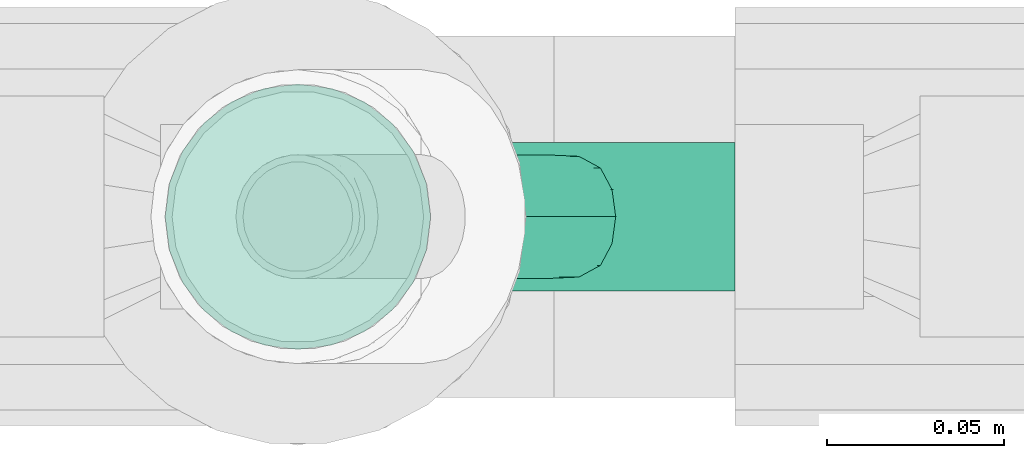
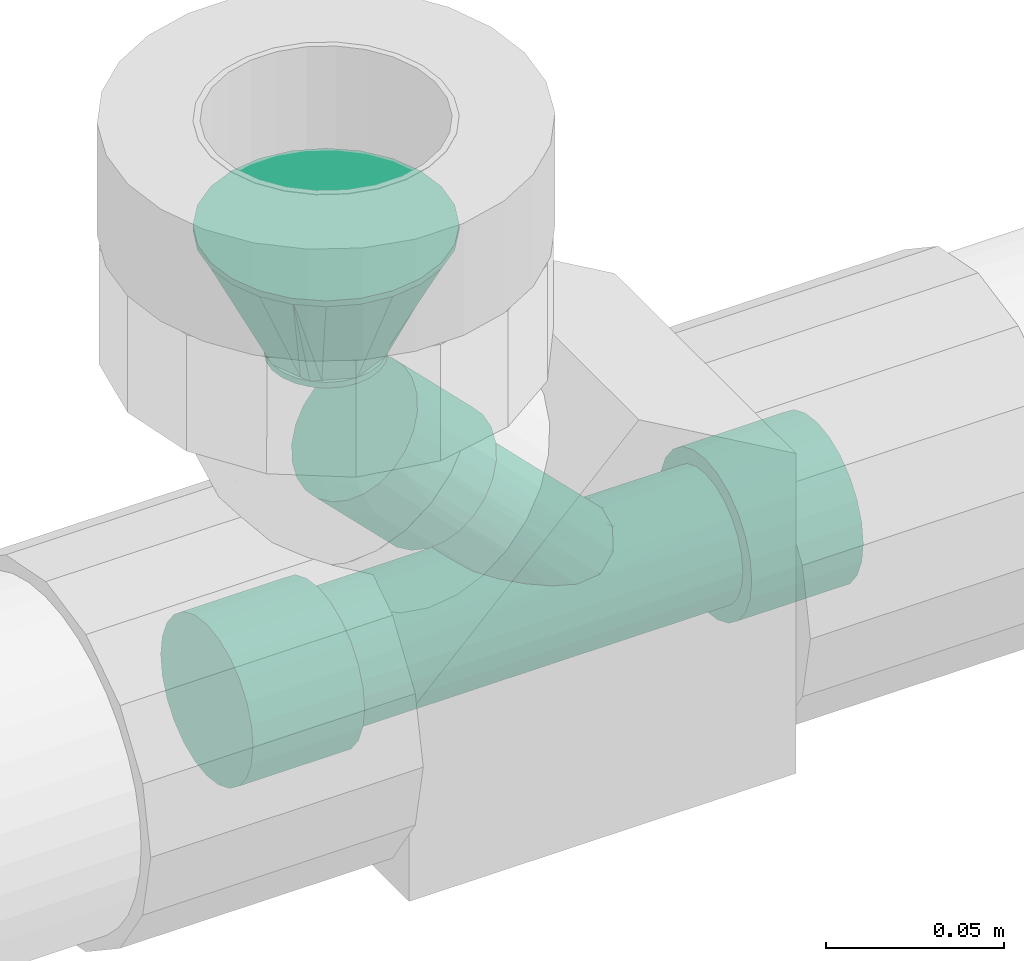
# One storey, part 30 of 35: 2 flow fittings.
"""IFC2X3 building model written with IfcOpenShell, lengths in millimetres."""

from ifc_helpers import new_model, entity, si_unit, converted_unit, derived_unit, direction, frame, origin_with_axes, place, context, subcontext, project, spatial, open_shell, surface_model, source, transform, mapped, type_object, element, save


model = new_model("IFC2X3")

# Units and contexts
model_context = context("Model", 3, precision=0.01, world=frame((0.0, 4.29681676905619e-09, 0.0)), true_north=direction((4.01073788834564e-13, 1.0)))
plan_context = context("Plan", 3, precision=0.01, world=frame((0.0, 4.29681676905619e-09, 0.0)), true_north=direction((4.01073788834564e-13, 1.0)))
body_context = subcontext(model_context, "Body", "Model", "MODEL_VIEW")
ifc_project = project(units=[converted_unit("PLANEANGLEUNIT", "DEGREE", entity("IfcPositiveLengthMeasure", 0.0174532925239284), si_unit("PLANEANGLEUNIT", "RADIAN"), dimensions=[0, 0, 0, 0, 0, 0, 0]), si_unit("AREAUNIT", "SQUARE_METRE"), si_unit("LENGTHUNIT", "METRE", prefix="MILLI"), si_unit("MASSUNIT", "GRAM", prefix="KILO"), si_unit("POWERUNIT", "WATT"), si_unit("PRESSUREUNIT", "PASCAL"), si_unit("FORCEUNIT", "NEWTON", prefix="KILO"), si_unit("ELECTRICVOLTAGEUNIT", "VOLT"), si_unit("ELECTRICCURRENTUNIT", "AMPERE"), si_unit("THERMODYNAMICTEMPERATUREUNIT", "DEGREE_CELSIUS"), si_unit("TIMEUNIT", "SECOND"), si_unit("VOLUMEUNIT", "CUBIC_METRE"), derived_unit("LINEARVELOCITYUNIT", [(si_unit("LENGTHUNIT", "METRE"), 1), (si_unit("TIMEUNIT", "SECOND"), -1)]), derived_unit("VOLUMETRICFLOWRATEUNIT", [(si_unit("VOLUMEUNIT", "CUBIC_METRE"), 1), (si_unit("TIMEUNIT", "SECOND"), -1)]), derived_unit("THERMALTRANSMITTANCEUNIT", [(si_unit("POWERUNIT", "WATT"), 1), (si_unit("THERMODYNAMICTEMPERATUREUNIT", "KELVIN"), -1), (si_unit("AREAUNIT", "SQUARE_METRE"), -1)]), derived_unit("SOUNDPRESSUREUNIT", [(si_unit("PRESSUREUNIT", "PASCAL"), 1)])], contexts=[model_context, plan_context])

# Site, building, storey
site_placement = place(None, frame((0.0, -4.29681676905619e-09, 0.0), z_axis=(0.0, 0.0, 1.0), x_axis=(1.0, 0.0, 0.0)))
site = spatial("IfcSite", under=ifc_project, at=site_placement, Name="ENGM", CompositionType="ELEMENT")
building_placement = place(site_placement, frame((0.0, 4.29681676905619e-09, 0.0), z_axis=(0.0, 0.0, 1.0), x_axis=(1.0, 0.0, 0.0)))
building = spatial("IfcBuilding", under=site, at=building_placement, Name="TH", CompositionType="ELEMENT")
storey_placement = place(building_placement, frame((0.0, 0.0, 210200.0), z_axis=(0.0, 0.0, 1.0), x_axis=(1.0, 0.0, 0.0)))
storey = spatial("IfcBuildingStorey", under=building, at=storey_placement, Name="Nivå F - 0,7 m", CompositionType="ELEMENT", Elevation=210200.0)

# Flow fittings
pipe_fitting_type_1 = type_object("IfcPipeFittingType", Name="magi_sewer_tee_wye_NOR", PredefinedType="JUNCTION")
shared_shape_1 = source(origin_with_axes(), body_context, "Body", "SurfaceModel", [
    surface_model("IfcShellBasedSurfaceModel", [(73.67437, 25.11407, -6.72929), (73.67437, 6.72929, -25.11407), (73.67437, 13.0, -22.51666), (73.67437, 18.38478, -18.38478), (73.67437, -25.11407, 6.72929), (73.67437, -13.0, -22.51666), (73.67437, 22.51666, -13.0), (73.67437, 0.0, -26.0), (73.67437, -6.72929, -25.11407), (73.67437, -22.51666, -13.0), (73.67437, -18.38478, -18.38478), (73.67437, -26.0, 0.0), (73.67437, -25.11407, -6.72929), (73.67437, 25.11407, 6.72929), (73.67437, 26.0, 0.0), (73.67437, 22.51666, 13.0), (73.67437, 18.38478, 18.38478), (73.67437, 13.0, 22.51666), (73.67437, 6.72929, 25.11407), (73.67437, 0.0, 26.0), (73.67437, -6.72929, 25.11407), (73.67437, -18.38478, 18.38478), (73.67437, -22.51666, 13.0), (73.67437, -13.0, 22.51666), (37.37437, 0.0, 26.0), (37.37437, 6.72929, 25.11407), (37.37437, 13.0, 22.51666), (37.37437, -6.72929, 25.11407), (37.37437, 18.38478, 18.38478), (37.37437, 22.51666, 13.0), (37.37437, 25.11407, 6.72929), (37.37437, -22.51666, -13.0), (37.37437, -25.11407, 6.72929), (37.37437, -18.38478, 18.38478), (37.37437, -13.0, 22.51666), (37.37437, -22.51666, 13.0), (37.37437, -26.0, 0.0), (37.37437, 25.11407, -6.72929), (37.37437, 18.38478, -18.38478), (37.37437, 22.51666, -13.0), (37.37437, 13.0, -22.51666), (37.37437, 6.72929, -25.11407), (37.37437, -13.0, -22.51666), (37.37437, -18.38478, -18.38478), (37.37437, -25.11407, -6.72929), (37.37437, 0.0, -26.0), (37.37437, -6.72929, -25.11407), (37.37437, 26.0, 0.0), (-43.09709, -59.00699, -19.48557), (-46.93425, -55.16982, -21.73333), (-51.05204, -51.05204, -22.5), (-35.68425, -66.41982, -5.82343), (-37.27366, -64.83042, -11.25), (-39.80204, -62.30204, -15.9099), (-64.83042, -37.27366, -11.25), (-62.30204, -39.80204, -15.9099), (-59.00699, -43.09709, -19.48557), (-55.16982, -46.93425, -21.73333), (-66.41982, -35.68425, -5.82343), (-66.96194, -35.14214, 0.0), (-66.41982, -35.68425, 5.82343), (-37.27366, -64.83042, 11.25), (-35.68425, -66.41982, 5.82343), (-43.09709, -59.00699, 19.48557), (-39.80204, -62.30204, 15.9099), (-59.00699, -43.09709, 19.48557), (-51.05204, -51.05204, 22.5), (-46.93425, -55.16982, 21.73333), (-64.83042, -37.27366, 11.25), (-62.30204, -39.80204, 15.9099), (-55.16982, -46.93425, 21.73333), (-35.14214, -66.96194, 0.0), (-76.72002, -76.72002, -22.5), (-72.60223, -80.8378, -21.73333), (-68.76506, -84.67496, -19.48557), (-61.35223, -92.0878, -5.82343), (-62.94163, -90.49839, -11.25), (-65.47001, -87.97001, -15.9099), (-84.67496, -68.76506, -19.48557), (-62.94163, -90.49839, 11.25), (-92.62992, -60.81011, 0.0), (-87.97001, -65.47001, -15.9099), (-80.8378, -72.60223, -21.73333), (-90.49839, -62.94163, -11.25), (-92.0878, -61.35223, -5.82343), (-61.35223, -92.0878, 5.82343), (-84.67496, -68.76506, 19.48557), (-68.76506, -84.67496, 19.48557), (-65.47001, -87.97001, 15.9099), (-72.60223, -80.8378, 21.73333), (-76.72002, -76.72002, 22.5), (-90.49839, -62.94163, 11.25), (-92.0878, -61.35223, 5.82343), (-87.97001, -65.47001, 15.9099), (-80.8378, -72.60223, 21.73333), (-60.81011, -92.62992, 0.0), (-124.72641, -25.11407, -6.72929), (-124.72641, -6.72929, -25.11407), (-124.72641, -13.0, -22.51666), (-124.72641, -18.38478, -18.38478), (-124.72641, 25.11407, 6.72929), (-124.72641, 13.0, -22.51666), (-124.72641, -22.51666, -13.0), (-124.72641, 0.0, -26.0), (-124.72641, 6.72929, -25.11407), (-124.72641, 22.51666, -13.0), (-124.72641, 18.38478, -18.38478), (-124.72641, 26.0, 0.0), (-124.72641, 25.11407, -6.72929), (-124.72641, -25.11407, 6.72929), (-124.72641, -26.0, 0.0), (-124.72641, -22.51666, 13.0), (-124.72641, -18.38478, 18.38478), (-124.72641, -13.0, 22.51666), (-124.72641, -6.72929, 25.11407), (-124.72641, 0.0, 26.0), (-124.72641, 6.72929, 25.11407), (-124.72641, 18.38478, 18.38478), (-124.72641, 22.51666, 13.0), (-124.72641, 13.0, 22.51666), (-88.42641, 0.0, 26.0), (-88.42641, -6.72929, 25.11407), (-88.42641, -13.0, 22.51666), (-88.42641, 6.72929, 25.11407), (-88.42641, -18.38478, 18.38478), (-88.42641, -22.51666, 13.0), (-88.42641, -25.11407, 6.72929), (-88.42641, 22.51666, -13.0), (-88.42641, 25.11407, 6.72929), (-88.42641, 18.38478, 18.38478), (-88.42641, 13.0, 22.51666), (-88.42641, 22.51666, 13.0), (-88.42641, 26.0, 0.0), (-88.42641, -25.11407, -6.72929), (-88.42641, -18.38478, -18.38478), (-88.42641, -22.51666, -13.0), (-88.42641, -13.0, -22.51666), (-88.42641, -6.72929, -25.11407), (-88.42641, 13.0, -22.51666), (-88.42641, 18.38478, -18.38478), (-88.42641, 25.11407, -6.72929), (-88.42641, 0.0, -26.0), (-88.42641, 6.72929, -25.11407), (-88.42641, -26.0, 0.0), (37.37437, 5.4352, -20.28444), (37.37437, 10.5, -18.18653), (37.37437, 14.84924, -14.84924), (37.37437, -20.28444, 5.4352), (37.37437, 20.28444, 5.4352), (37.37437, 18.18653, -10.5), (37.37437, 20.28444, -5.4352), (37.37437, -10.5, -18.18653), (37.37437, 0.0, -21.0), (37.37437, -5.4352, -20.28444), (37.37437, -18.18653, -10.5), (37.37437, -14.84924, -14.84924), (37.37437, -21.0, 0.0), (37.37437, -20.28444, -5.4352), (37.37437, 21.0, 0.0), (37.37437, 18.18653, 10.5), (37.37437, 14.84924, 14.84924), (37.37437, 10.5, 18.18653), (37.37437, 5.4352, 20.28444), (37.37437, 0.0, 21.0), (37.37437, -14.84924, 14.84924), (37.37437, -18.18653, 10.5), (37.37437, -10.5, 18.18653), (37.37437, -5.4352, 20.28444), (-88.42641, 0.0, 21.0), (-88.42641, 5.4352, 20.28444), (-88.42641, 10.5, 18.18653), (-88.42641, 14.84924, 14.84924), (-88.42641, 18.18653, 10.5), (-88.42641, 20.28444, 5.4352), (-88.42641, -20.28444, 5.4352), (-88.42641, -10.5, -18.18653), (-88.42641, -10.5, 18.18653), (-88.42641, -5.4352, 20.28444), (-88.42641, -14.84924, 14.84924), (-88.42641, -18.18653, 10.5), (-88.42641, -21.0, 0.0), (-88.42641, 20.28444, -5.4352), (-88.42641, 14.84924, -14.84924), (-88.42641, 18.18653, -10.5), (-88.42641, 10.5, -18.18653), (-88.42641, 5.4352, -20.28444), (-88.42641, -14.84924, -14.84924), (-88.42641, -18.18653, -10.5), (-88.42641, -20.28444, -5.4352), (-88.42641, 0.0, -21.0), (-88.42641, -5.4352, -20.28444), (-88.42641, 21.0, 0.0), (-44.14318, -20.4097, -3.471), (-88.42641, -20.64222, -2.7176), (3.22779, -20.28185, -3.81646), (37.37437, -20.64222, -2.7176), (-45.74874, -21.0, 0.0), (-42.53762, -19.8194, -6.94199), (-36.42785, -17.64133, -11.39225), (3.74874, -21.0, 0.0), (-29.49359, -15.331, -14.35132), (-22.13765, -13.21276, -16.32247), (-14.45485, -11.76319, -17.39619), (2.70684, -19.5637, -7.63293), (37.37437, -19.23549, -7.9676), (-6.61324, -12.28041, -17.03501), (37.37437, -12.67462, -16.51789), (-0.55109, -15.88386, -13.73693), (1.07787, -17.72378, -10.68493), (37.37437, -16.51789, -12.67462), (-14.45485, -11.76319, 17.39619), (-44.14318, -20.4097, 3.471), (-88.42641, -20.64222, 2.7176), (-36.42785, -17.64133, 11.39225), (-29.49359, -15.331, 14.35132), (-6.61324, -12.28041, 17.03501), (37.37437, -12.67462, 16.51789), (-22.13765, -13.21276, 16.32247), (-42.53762, -19.8194, 6.94199), (2.70684, -19.5637, 7.63293), (3.22779, -20.28185, 3.81646), (37.37437, -19.23549, 7.9676), (-0.55109, -15.88386, 13.73693), (37.37437, -16.51789, 12.67462), (1.07787, -17.72378, 10.68493), (37.37437, -20.64222, 2.7176), (-47.84931, -54.25476, -16.9037), (-57.23922, -44.86485, -15.15544), (-51.05204, -51.05204, -17.5), (-42.30204, -59.80204, -12.37437), (-44.86485, -57.23922, -15.15544), (-40.33552, -61.76855, -8.75), (-39.09932, -63.00476, -4.52933), (-61.76855, -40.33552, -8.75), (-59.80204, -42.30204, -12.37437), (-54.25476, -47.84931, -16.9037), (-63.00476, -39.09932, 4.52933), (-63.00476, -39.09932, -4.52933), (-63.42641, -38.67767, 0.0), (-39.09932, -63.00476, 4.52933), (-42.30204, -59.80204, 12.37437), (-40.33552, -61.76855, 8.75), (-44.86485, -57.23922, 15.15544), (-47.84931, -54.25476, 16.9037), (-51.05204, -51.05204, 17.5), (-59.80204, -42.30204, 12.37437), (-61.76855, -40.33552, 8.75), (-57.23922, -44.86485, 15.15544), (-54.25476, -47.84931, 16.9037), (-38.67767, -63.42641, 0.0), (-3.58217, -14.08213, 15.38597), (-3.58217, -14.08213, -15.38597)], [open_shell([[[0, 1, 2]], [[0, 2, 3]], [[4, 5, 1]], [[0, 3, 6]], [[0, 4, 1]], [[7, 5, 8]], [[7, 1, 5]], [[5, 9, 10]], [[5, 4, 9]], [[9, 11, 12]], [[13, 0, 14]], [[13, 15, 16]], [[13, 16, 17]], [[17, 18, 19]], [[17, 4, 0]], [[20, 17, 19]], [[4, 21, 22]], [[11, 9, 4]], [[21, 20, 23]], [[20, 21, 4]], [[17, 20, 4]], [[0, 13, 17]], [[24, 25, 26]], [[27, 24, 26]], [[28, 29, 30]], [[28, 30, 26]], [[31, 32, 26]], [[27, 33, 34]], [[33, 27, 32]], [[33, 32, 35]], [[27, 26, 32]], [[32, 31, 36]], [[31, 26, 30]], [[31, 30, 37]], [[38, 37, 39]], [[40, 41, 37]], [[40, 37, 38]], [[31, 37, 41]], [[31, 42, 43]], [[44, 36, 31]], [[42, 45, 46]], [[42, 31, 41]], [[45, 42, 41]], [[30, 47, 37]], [[12, 36, 44]], [[31, 9, 44]], [[5, 42, 46]], [[8, 46, 45]], [[44, 9, 12]], [[12, 11, 36]], [[10, 43, 5]], [[10, 9, 31]], [[5, 43, 42]], [[46, 8, 5]], [[10, 31, 43]], [[45, 7, 8]], [[1, 41, 40]], [[38, 2, 40]], [[6, 39, 37]], [[38, 39, 3]], [[0, 37, 47]], [[41, 1, 7]], [[40, 2, 1]], [[38, 3, 2]], [[39, 6, 3]], [[0, 6, 37]], [[47, 14, 0]], [[41, 7, 45]], [[30, 13, 47]], [[29, 15, 30]], [[29, 28, 16]], [[28, 26, 17]], [[30, 15, 13]], [[13, 14, 47]], [[19, 18, 25]], [[18, 17, 26]], [[16, 28, 17]], [[16, 15, 29]], [[25, 18, 26]], [[25, 24, 19]], [[20, 27, 34]], [[33, 23, 34]], [[22, 35, 32]], [[33, 35, 21]], [[4, 32, 36]], [[27, 20, 19]], [[34, 23, 20]], [[33, 21, 23]], [[35, 22, 21]], [[4, 22, 32]], [[36, 11, 4]], [[27, 19, 24]], [[48, 49, 50]], [[51, 48, 50]], [[51, 52, 53]], [[48, 51, 53]], [[54, 51, 50]], [[55, 54, 56]], [[50, 57, 56]], [[58, 59, 54]], [[54, 50, 56]], [[59, 60, 54]], [[61, 51, 54]], [[61, 62, 51]], [[61, 54, 60]], [[63, 64, 65]], [[61, 60, 64]], [[66, 67, 63]], [[68, 69, 60]], [[69, 64, 60]], [[70, 66, 65]], [[64, 69, 65]], [[63, 65, 66]], [[71, 51, 62]], [[72, 73, 74]], [[72, 74, 75]], [[76, 75, 74]], [[76, 74, 77]], [[78, 72, 79]], [[78, 80, 81]], [[78, 82, 72]], [[83, 80, 84]], [[80, 83, 81]], [[78, 79, 80]], [[79, 72, 75]], [[85, 79, 75]], [[80, 79, 86]], [[86, 79, 87]], [[87, 79, 88]], [[89, 90, 87]], [[80, 91, 92]], [[93, 91, 80]], [[86, 90, 94]], [[93, 80, 86]], [[90, 86, 87]], [[85, 75, 95]], [[59, 80, 92]], [[60, 92, 91]], [[65, 93, 86]], [[70, 86, 94]], [[91, 93, 68]], [[92, 60, 59]], [[60, 91, 68]], [[69, 93, 65]], [[69, 68, 93]], [[65, 86, 70]], [[94, 66, 70]], [[94, 90, 66]], [[63, 89, 87]], [[88, 64, 87]], [[62, 79, 85]], [[88, 79, 61]], [[71, 85, 95]], [[89, 67, 90]], [[89, 63, 67]], [[90, 67, 66]], [[87, 64, 63]], [[88, 61, 64]], [[62, 61, 79]], [[85, 71, 62]], [[75, 71, 95]], [[76, 51, 75]], [[77, 74, 53]], [[76, 77, 52]], [[49, 74, 73]], [[76, 52, 51]], [[51, 71, 75]], [[48, 53, 74]], [[49, 73, 50]], [[53, 52, 77]], [[74, 49, 48]], [[73, 72, 50]], [[56, 82, 78]], [[81, 55, 78]], [[58, 83, 84]], [[81, 83, 54]], [[59, 84, 80]], [[82, 57, 72]], [[82, 56, 57]], [[72, 57, 50]], [[78, 55, 56]], [[81, 54, 55]], [[58, 54, 83]], [[84, 59, 58]], [[96, 97, 98]], [[96, 98, 99]], [[100, 101, 97]], [[96, 99, 102]], [[96, 100, 97]], [[103, 101, 104]], [[103, 97, 101]], [[101, 105, 106]], [[101, 100, 105]], [[105, 107, 108]], [[109, 96, 110]], [[109, 111, 112]], [[109, 112, 113]], [[113, 114, 115]], [[113, 100, 96]], [[116, 113, 115]], [[100, 117, 118]], [[107, 105, 100]], [[117, 116, 119]], [[116, 117, 100]], [[113, 116, 100]], [[96, 109, 113]], [[120, 121, 122]], [[123, 120, 122]], [[124, 125, 126]], [[124, 126, 122]], [[127, 128, 122]], [[123, 129, 130]], [[129, 123, 128]], [[129, 128, 131]], [[123, 122, 128]], [[128, 127, 132]], [[127, 122, 126]], [[127, 126, 133]], [[134, 133, 135]], [[136, 137, 133]], [[136, 133, 134]], [[127, 133, 137]], [[127, 138, 139]], [[140, 132, 127]], [[138, 141, 142]], [[138, 127, 137]], [[141, 138, 137]], [[126, 143, 133]], [[108, 132, 140]], [[127, 105, 140]], [[101, 138, 142]], [[104, 142, 141]], [[140, 105, 108]], [[108, 107, 132]], [[106, 139, 101]], [[106, 105, 127]], [[101, 139, 138]], [[142, 104, 101]], [[106, 127, 139]], [[141, 103, 104]], [[97, 137, 136]], [[134, 98, 136]], [[102, 135, 133]], [[134, 135, 99]], [[96, 133, 143]], [[137, 97, 103]], [[136, 98, 97]], [[134, 99, 98]], [[135, 102, 99]], [[96, 102, 133]], [[143, 110, 96]], [[137, 103, 141]], [[126, 109, 143]], [[125, 111, 126]], [[125, 124, 112]], [[124, 122, 113]], [[126, 111, 109]], [[109, 110, 143]], [[115, 114, 121]], [[114, 113, 122]], [[112, 124, 113]], [[112, 111, 125]], [[121, 114, 122]], [[121, 120, 115]], [[116, 123, 130]], [[129, 119, 130]], [[118, 131, 128]], [[129, 131, 117]], [[100, 128, 132]], [[123, 116, 115]], [[130, 119, 116]], [[129, 117, 119]], [[131, 118, 117]], [[100, 118, 128]], [[132, 107, 100]], [[123, 115, 120]], [[144, 145, 146]], [[147, 144, 146]], [[148, 149, 150]], [[147, 151, 144]], [[146, 149, 148]], [[152, 151, 153]], [[152, 144, 151]], [[151, 154, 155]], [[151, 147, 154]], [[154, 156, 157]], [[158, 148, 150]], [[148, 159, 160]], [[147, 148, 160]], [[161, 162, 163]], [[161, 163, 160]], [[164, 160, 163]], [[147, 164, 165]], [[156, 154, 147]], [[163, 166, 164]], [[164, 147, 160]], [[166, 163, 167]], [[147, 146, 148]], [[168, 169, 170]], [[168, 170, 171]], [[171, 172, 173]], [[171, 173, 168]], [[174, 168, 175]], [[168, 176, 177]], [[168, 178, 176]], [[178, 174, 179]], [[168, 174, 178]], [[174, 175, 180]], [[175, 168, 173]], [[173, 181, 182]], [[182, 181, 183]], [[182, 184, 185]], [[185, 173, 182]], [[185, 175, 173]], [[180, 186, 187]], [[188, 180, 187]], [[175, 189, 190]], [[180, 175, 186]], [[189, 175, 185]], [[173, 191, 181]], [[188, 192, 193]], [[194, 157, 195]], [[180, 193, 196]], [[188, 187, 197]], [[187, 186, 198]], [[199, 195, 156]], [[200, 198, 186]], [[201, 200, 186]], [[188, 197, 192]], [[201, 175, 202]], [[187, 198, 197]], [[203, 154, 204]], [[196, 193, 192]], [[203, 157, 194]], [[199, 194, 195]], [[203, 204, 157]], [[155, 205, 206]], [[207, 205, 155]], [[208, 209, 154]], [[154, 203, 208]], [[207, 155, 209]], [[205, 202, 151]], [[207, 209, 208]], [[205, 151, 206]], [[201, 186, 175]], [[153, 190, 189]], [[190, 153, 202]], [[152, 189, 185]], [[183, 181, 149]], [[145, 184, 182]], [[146, 182, 183]], [[185, 184, 144]], [[150, 181, 191]], [[202, 153, 151]], [[153, 189, 152]], [[144, 152, 185]], [[184, 145, 144]], [[145, 182, 146]], [[149, 146, 183]], [[150, 149, 181]], [[191, 158, 150]], [[190, 202, 175]], [[172, 159, 173]], [[159, 172, 171]], [[191, 173, 148]], [[168, 177, 163]], [[161, 170, 169]], [[162, 169, 168]], [[160, 171, 170]], [[210, 167, 177]], [[211, 174, 212]], [[159, 148, 173]], [[171, 160, 159]], [[148, 158, 191]], [[170, 161, 160]], [[161, 169, 162]], [[163, 162, 168]], [[167, 163, 177]], [[167, 210, 166]], [[210, 177, 176]], [[178, 213, 214]], [[213, 178, 179]], [[215, 164, 216]], [[214, 217, 178]], [[196, 212, 180]], [[217, 210, 176]], [[196, 211, 212]], [[174, 218, 179]], [[218, 174, 211]], [[147, 219, 220]], [[179, 218, 213]], [[215, 216, 166]], [[219, 147, 221]], [[164, 222, 223]], [[224, 223, 222]], [[215, 222, 164]], [[215, 166, 210]], [[199, 225, 220]], [[219, 165, 224]], [[219, 221, 165]], [[220, 225, 147]], [[223, 224, 165]], [[199, 156, 225]], [[217, 176, 178]], [[226, 227, 228]], [[229, 226, 230]], [[227, 229, 231]], [[229, 227, 226]], [[232, 227, 231]], [[227, 233, 234]], [[227, 235, 228]], [[233, 236, 237]], [[236, 233, 227]], [[238, 237, 236]], [[232, 239, 227]], [[236, 227, 239]], [[240, 239, 241]], [[239, 242, 236]], [[242, 239, 240]], [[243, 244, 242]], [[236, 245, 246]], [[245, 236, 247]], [[236, 248, 247]], [[236, 242, 248]], [[242, 244, 248]], [[239, 232, 249]], [[218, 236, 246]], [[214, 245, 247]], [[246, 245, 213]], [[217, 247, 248]], [[236, 211, 238]], [[211, 196, 238]], [[236, 218, 211]], [[224, 241, 219]], [[218, 246, 213]], [[213, 245, 214]], [[242, 222, 250]], [[247, 217, 214]], [[224, 222, 240]], [[248, 210, 217]], [[242, 250, 243]], [[240, 222, 242]], [[249, 220, 239]], [[220, 249, 199]], [[210, 244, 215]], [[244, 210, 248]], [[244, 243, 215]], [[220, 219, 239]], [[250, 215, 243]], [[241, 224, 240]], [[219, 241, 239]], [[194, 249, 232]], [[251, 207, 230]], [[229, 207, 208]], [[251, 226, 205]], [[205, 226, 228]], [[232, 203, 194]], [[203, 232, 231]], [[199, 249, 194]], [[229, 208, 231]], [[230, 207, 229]], [[226, 251, 230]], [[203, 231, 208]], [[238, 192, 237]], [[228, 202, 205]], [[201, 235, 227]], [[234, 200, 227]], [[197, 233, 237]], [[234, 233, 198]], [[192, 238, 196]], [[235, 201, 202]], [[201, 227, 200]], [[197, 198, 233]], [[192, 197, 237]], [[200, 234, 198]], [[235, 202, 228]]])]),
])
flow_fitting_1_placement = place(storey_placement, frame((905369.3147, 486361.4, 3085.00002000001), z_axis=(0.0, 1.0, 0.0), x_axis=(1.0, 0.0, 0.0)))
element("IfcFlowFitting", 1, at=flow_fitting_1_placement, inside=storey, type_object=pipe_fitting_type_1, Name="magi_sewer_tee_wye_NOR", context=body_context, shape_type="MappedRepresentation", body=[
    mapped(shared_shape_1, transform((0.0, 0.0, 0.0), scale=1.0)),
])
pipe_fitting_type_2 = type_object("IfcPipeFittingType", Name="magi_pipe_cu_reducer_centric_short_001", PredefinedType="TRANSITION")
shared_shape_2 = source(origin_with_axes(), body_context, "Body", "SurfaceModel", [
    surface_model("IfcShellBasedSurfaceModel", [(-2.0, 0.0, 17.5), (-2.0, 4.52933, 16.9037), (-2.0, 8.75, 15.15544), (-2.0, -16.9037, 4.52933), (-2.0, 12.37437, 12.37437), (-2.0, 15.15544, 8.75), (-2.0, 16.9037, 4.52933), (-2.0, -8.75, 15.15544), (-2.0, -12.37437, 12.37437), (-2.0, -4.52933, 16.9037), (-2.0, -15.15544, 8.75), (-2.0, -15.15544, -8.75), (-2.0, -17.5, 0.0), (-2.0, 16.9037, -4.52933), (-2.0, 8.75, -15.15544), (-2.0, 12.37437, -12.37437), (-2.0, 15.15544, -8.75), (-2.0, 4.52933, -16.9037), (-2.0, -8.75, -15.15544), (-2.0, -12.37437, -12.37437), (-2.0, -16.9037, -4.52933), (-2.0, 0.0, -17.5), (-2.0, -4.52933, -16.9037), (-2.0, 17.5, 0.0), (0.0, 16.9037, -4.52933), (0.0, 4.52933, -16.9037), (0.0, 8.75, -15.15544), (0.0, 12.37437, -12.37437), (0.0, -15.15544, -8.75), (0.0, 15.15544, -8.75), (0.0, 16.9037, 4.52933), (0.0, 0.0, -17.5), (0.0, -8.75, -15.15544), (0.0, -4.52933, -16.9037), (0.0, -12.37437, -12.37437), (0.0, -17.5, 0.0), (0.0, -16.9037, -4.52933), (0.0, 17.5, 0.0), (0.0, 15.15544, 8.75), (0.0, 12.37437, 12.37437), (0.0, 8.75, 15.15544), (0.0, 4.52933, 16.9037), (0.0, 0.0, 17.5), (0.0, -16.9037, 4.52933), (0.0, -12.37437, 12.37437), (0.0, -15.15544, 8.75), (0.0, -8.75, 15.15544), (0.0, -4.52933, 16.9037), (42.0, 9.70571, -36.22222), (42.0, 18.75, -32.47595), (42.0, 26.5165, -26.5165), (42.0, 32.47595, -18.75), (42.0, 36.22222, -9.70571), (42.0, 0.0, -37.5), (42.0, 0.0, 37.5), (42.0, -32.47595, -18.75), (42.0, -18.75, -32.47595), (42.0, -9.70571, -36.22222), (42.0, -26.5165, -26.5165), (42.0, -37.5, 0.0), (42.0, -36.22222, -9.70571), (42.0, 37.5, 0.0), (42.0, 36.22222, 9.70571), (42.0, 32.47595, 18.75), (42.0, 26.5165, 26.5165), (42.0, 9.70571, 36.22222), (42.0, 18.75, 32.47595), (42.0, -26.5165, 26.5165), (42.0, -36.22222, 9.70571), (42.0, -32.47595, 18.75), (42.0, -9.70571, 36.22222), (42.0, -18.75, 32.47595), (40.0, 9.70571, 36.22222), (40.0, -26.5165, 26.5165), (40.0, 0.0, 37.5), (40.0, 18.75, 32.47595), (40.0, 26.5165, 26.5165), (40.0, 32.47595, 18.75), (40.0, 36.22222, 9.70571), (40.0, -9.70571, 36.22222), (40.0, -18.75, 32.47595), (40.0, -36.22222, 9.70571), (40.0, -32.47595, 18.75), (40.0, -37.5, 0.0), (40.0, -26.5165, -26.5165), (40.0, 36.22222, -9.70571), (40.0, -18.75, -32.47595), (40.0, 37.5, 0.0), (40.0, 26.5165, -26.5165), (40.0, 32.47595, -18.75), (40.0, 18.75, -32.47595), (40.0, 9.70571, -36.22222), (40.0, 0.0, -37.5), (40.0, -32.47595, -18.75), (40.0, -36.22222, -9.70571), (40.0, -9.70571, -36.22222), (40.0, -25.61298, -25.61298), (0.0, -13.65578, -9.28078), (0.0, 6.18718, -14.93718), (0.0, 9.28078, -13.65578), (40.0, 9.375, -34.98798), (0.0, -3.09359, -16.21859), (0.0, -14.93718, -6.18718), (40.0, -34.98798, -9.375), (0.0, 3.09359, -16.21859), (0.0, -16.21859, -3.09359), (40.0, 25.61298, -25.61298), (0.0, 13.65578, -9.28078), (40.0, -9.375, -34.98798), (40.0, 34.98798, -9.375), (0.0, 14.93718, -6.18718), (0.0, 16.21859, -3.09359), (0.0, -6.18718, -14.93718), (0.0, -9.28078, -13.65578), (40.0, 25.61298, 25.61298), (0.0, 13.65578, 9.28078), (0.0, -6.18718, 14.93718), (0.0, -9.28078, 13.65578), (40.0, -9.375, 34.98798), (0.0, 3.09359, 16.21859), (0.0, 14.93718, 6.18718), (40.0, 34.98798, 9.375), (0.0, -3.09359, 16.21859), (0.0, 16.21859, 3.09359), (40.0, -25.61298, 25.61298), (0.0, -13.65578, 9.28078), (40.0, 9.375, 34.98798), (40.0, -34.98798, 9.375), (0.0, -14.93718, 6.18718), (0.0, -16.21859, 3.09359), (0.0, 6.18718, 14.93718), (0.0, 9.28078, 13.65578)], [open_shell([[[0, 1, 2]], [[3, 0, 2]], [[4, 5, 6]], [[4, 6, 2]], [[3, 2, 6]], [[7, 3, 8]], [[7, 9, 0]], [[8, 3, 10]], [[0, 3, 7]], [[3, 11, 12]], [[3, 6, 13]], [[3, 13, 14]], [[15, 13, 16]], [[17, 3, 14]], [[14, 13, 15]], [[17, 18, 3]], [[11, 18, 19]], [[20, 12, 11]], [[18, 21, 22]], [[11, 3, 18]], [[21, 18, 17]], [[6, 23, 13]], [[24, 25, 26]], [[24, 26, 27]], [[25, 24, 28]], [[24, 27, 29]], [[30, 28, 24]], [[31, 32, 33]], [[31, 25, 32]], [[32, 28, 34]], [[25, 28, 32]], [[28, 35, 36]], [[30, 24, 37]], [[30, 38, 39]], [[35, 30, 39]], [[40, 41, 42]], [[39, 40, 43]], [[42, 43, 40]], [[43, 44, 45]], [[43, 35, 39]], [[43, 46, 44]], [[43, 42, 46]], [[47, 46, 42]], [[30, 35, 28]], [[20, 36, 12]], [[11, 28, 20]], [[32, 19, 18]], [[11, 19, 34]], [[33, 18, 22]], [[20, 28, 36]], [[36, 35, 12]], [[33, 32, 18]], [[34, 19, 32]], [[34, 28, 11]], [[31, 33, 22]], [[22, 21, 31]], [[17, 25, 21]], [[14, 26, 17]], [[29, 15, 16]], [[14, 15, 27]], [[24, 16, 13]], [[14, 27, 26]], [[26, 25, 17]], [[37, 24, 13]], [[29, 16, 24]], [[29, 27, 15]], [[23, 37, 13]], [[21, 25, 31]], [[6, 30, 23]], [[5, 38, 6]], [[40, 4, 2]], [[5, 4, 39]], [[41, 2, 1]], [[6, 38, 30]], [[30, 37, 23]], [[41, 40, 2]], [[39, 4, 40]], [[39, 38, 5]], [[42, 41, 1]], [[1, 0, 42]], [[9, 47, 0]], [[7, 46, 9]], [[45, 8, 10]], [[7, 8, 44]], [[43, 10, 3]], [[7, 44, 46]], [[46, 47, 9]], [[35, 43, 3]], [[45, 10, 43]], [[45, 44, 8]], [[12, 35, 3]], [[0, 47, 42]], [[34, 35, 44]], [[42, 39, 37]], [[34, 44, 42]], [[37, 27, 31]], [[31, 34, 37]], [[37, 34, 42]], [[48, 49, 50]], [[48, 50, 51]], [[48, 52, 53]], [[52, 48, 51]], [[52, 54, 55]], [[53, 56, 57]], [[53, 52, 56]], [[52, 58, 56]], [[52, 55, 58]], [[59, 60, 55]], [[52, 61, 62]], [[62, 63, 64]], [[62, 64, 54]], [[65, 54, 64]], [[65, 64, 66]], [[67, 55, 54]], [[68, 67, 69]], [[67, 68, 59]], [[67, 70, 71]], [[59, 55, 67]], [[54, 70, 67]], [[54, 52, 62]], [[72, 73, 74]], [[75, 73, 72]], [[76, 77, 78]], [[75, 76, 73]], [[76, 78, 73]], [[79, 73, 80]], [[79, 74, 73]], [[73, 81, 82]], [[81, 73, 83]], [[73, 84, 83]], [[73, 78, 84]], [[85, 86, 87]], [[88, 85, 89]], [[88, 90, 91]], [[85, 88, 92]], [[91, 92, 88]], [[93, 94, 83]], [[84, 93, 83]], [[86, 92, 95]], [[86, 84, 87]], [[92, 86, 85]], [[78, 87, 84]], [[94, 60, 83]], [[93, 55, 94]], [[56, 84, 86]], [[93, 84, 58]], [[57, 86, 95]], [[94, 55, 60]], [[60, 59, 83]], [[57, 56, 86]], [[58, 84, 56]], [[58, 55, 93]], [[53, 57, 95]], [[95, 92, 53]], [[91, 48, 92]], [[90, 49, 91]], [[51, 88, 89]], [[90, 88, 50]], [[52, 89, 85]], [[90, 50, 49]], [[49, 48, 91]], [[61, 52, 85]], [[51, 89, 52]], [[51, 50, 88]], [[87, 61, 85]], [[92, 48, 53]], [[78, 62, 87]], [[77, 63, 78]], [[66, 76, 75]], [[77, 76, 64]], [[65, 75, 72]], [[78, 63, 62]], [[62, 61, 87]], [[65, 66, 75]], [[64, 76, 66]], [[64, 63, 77]], [[54, 65, 72]], [[72, 74, 54]], [[79, 70, 74]], [[80, 71, 79]], [[69, 73, 82]], [[80, 73, 67]], [[68, 82, 81]], [[80, 67, 71]], [[71, 70, 79]], [[59, 68, 81]], [[69, 82, 68]], [[69, 67, 73]], [[83, 59, 81]], [[74, 70, 54]], [[83, 74, 80]], [[75, 74, 83]], [[75, 89, 77]], [[87, 77, 89]], [[80, 82, 83]], [[83, 93, 86]], [[83, 86, 90]], [[83, 90, 89]], [[90, 86, 92]], [[83, 89, 75]], [[96, 97, 34]], [[90, 98, 99]], [[98, 90, 100]], [[92, 101, 31]], [[102, 93, 103]], [[104, 92, 31]], [[103, 105, 102]], [[106, 107, 89]], [[92, 108, 101]], [[109, 110, 111]], [[92, 104, 100]], [[107, 106, 27]], [[108, 112, 101]], [[87, 111, 37]], [[96, 113, 86]], [[111, 87, 109]], [[93, 102, 97]], [[113, 96, 34]], [[83, 105, 103]], [[93, 97, 96]], [[35, 105, 83]], [[86, 112, 108]], [[89, 110, 109]], [[99, 27, 106]], [[107, 110, 89]], [[113, 112, 86]], [[104, 98, 100]], [[90, 99, 106]], [[114, 115, 39]], [[80, 116, 117]], [[116, 80, 118]], [[74, 119, 42]], [[120, 77, 121]], [[122, 74, 42]], [[121, 123, 120]], [[124, 125, 82]], [[74, 126, 119]], [[127, 128, 129]], [[74, 122, 118]], [[125, 124, 44]], [[126, 130, 119]], [[83, 129, 35]], [[114, 131, 75]], [[129, 83, 127]], [[77, 120, 115]], [[131, 114, 39]], [[87, 123, 121]], [[77, 115, 114]], [[37, 123, 87]], [[75, 130, 126]], [[82, 128, 127]], [[117, 44, 124]], [[125, 128, 82]], [[131, 130, 75]], [[122, 116, 118]], [[80, 117, 124]]])]),
])
flow_fitting_2_placement = place(storey_placement, frame((905283.35126, 486361.38955, 3192.83411), z_axis=(0.0, 0.99999988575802, 0.000477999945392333), x_axis=(0.0, -0.000477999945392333, 0.99999988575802)))
element("IfcFlowFitting", 2, at=flow_fitting_2_placement, inside=storey, type_object=pipe_fitting_type_2, Name="magi_pipe_cu_reducer_centric_short_001", context=body_context, shape_type="MappedRepresentation", body=[
    mapped(shared_shape_2, transform((0.0, 0.0, 0.0), scale=1.0)),
])

save(model, "model.ifc")
